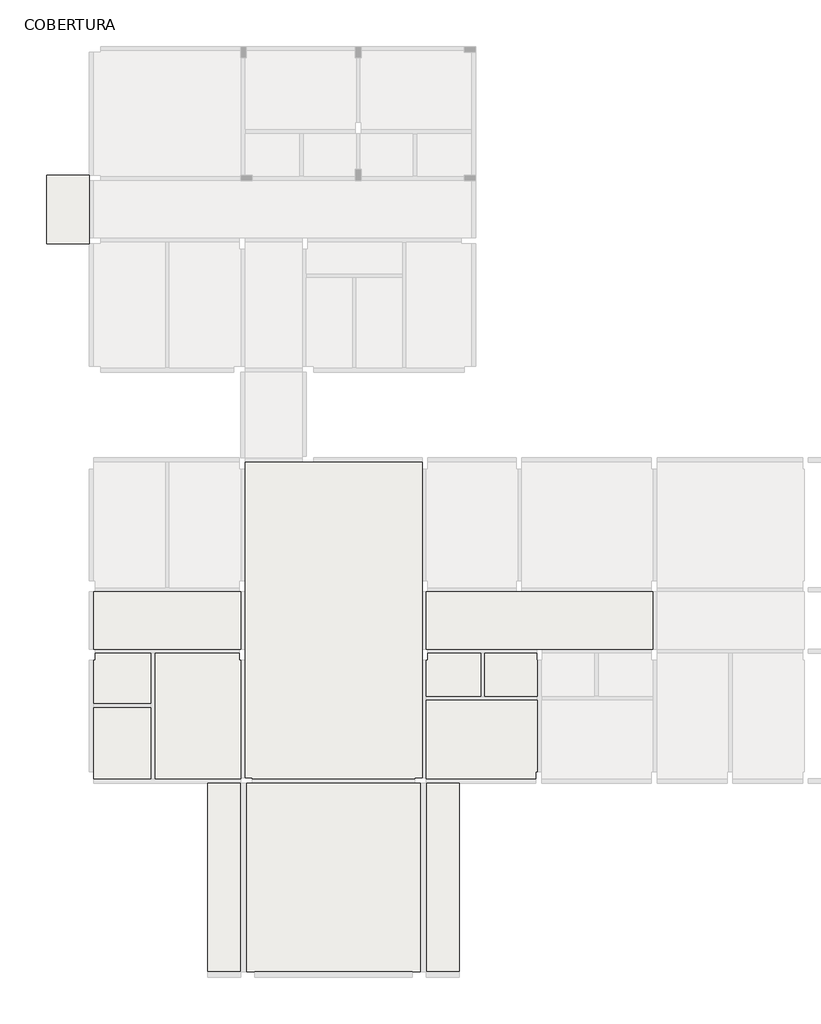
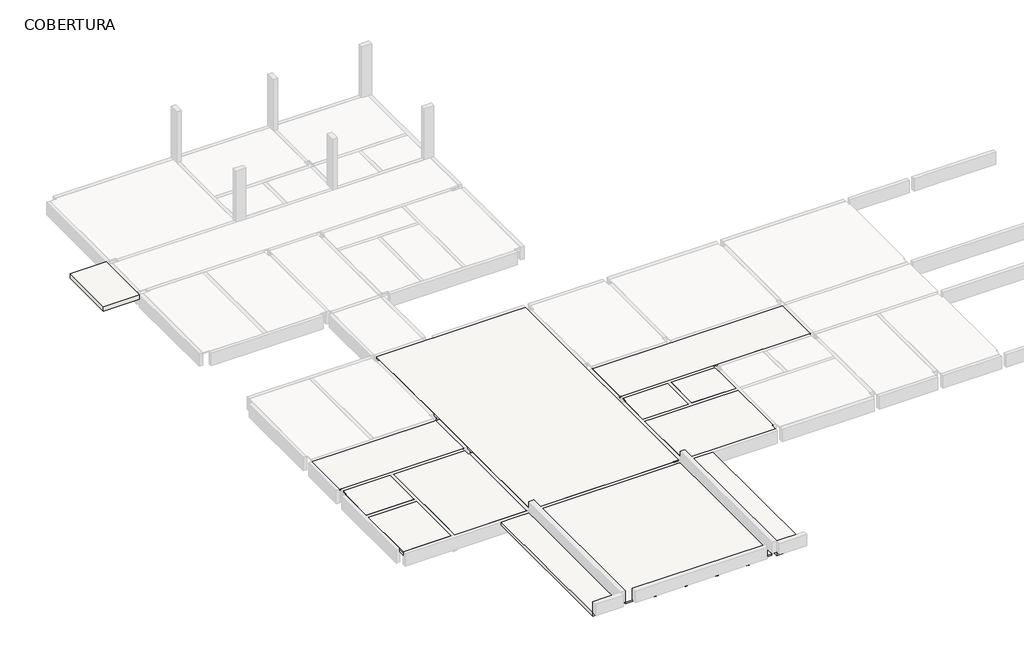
# One storey, part 1 of 5: 23 slabs.
"""IFC4 building model written with IfcOpenShell, lengths in millimetres."""

from ifc_helpers import new_model, si_unit, frame, origin, place, context, project, spatial, polyline, outline, extrude, faceted_brep, element, save

model = new_model("IFC4")

# Units and contexts
model_context = context("Model", 3, world=origin())
ifc_project = project(units=[si_unit("LENGTHUNIT", "METRE", prefix="MILLI")], contexts=[model_context])

# Site, building, storey
site = spatial("IfcSite", under=ifc_project)
building = spatial("IfcBuilding", under=site)
storey = spatial("IfcBuildingStorey", under=building, Name="COBERTURA", Elevation=4800.0)

# Slabs
placement = place(None, origin())
element("IfcSlab", 1, ObjectType="h=5", at=placement, inside=storey, context=model_context, shape_type="Brep", body=[
    faceted_brep([(2150.0, 150.0, 4750.0), (150.0, 150.0, 4750.0), (150.0, 2650.0, 4750.0), (2150.0, 2650.0, 4750.0), (2150.0, 150.0, 4800.0), (2150.0, 2650.0, 4800.0), (150.0, 2650.0, 4800.0), (150.0, 400.0, 4800.0), (150.0, 150.0, 4800.0)], [[[0, 1, 2, 3]], [[4, 5, 6, 7, 8]], [[1, 0, 4, 8]], [[2, 1, 8, 7, 6]], [[3, 2, 6, 5]], [[0, 3, 5, 4]]]),
])
element("IfcSlab", 2, ObjectType="h=10", at=placement, inside=storey, context=model_context, shape_type="SweptSolid", body=[
    extrude(outline(polyline([(2150.0, 150.0), (150.0, 150.0), (150.0, 400.0), (1350.0, 400.0), (1350.0, 690.0), (150.0, 690.0), (150.0, 780.0), (1350.0, 780.0), (1350.0, 1180.0), (150.0, 1180.0), (150.0, 1270.0), (1350.0, 1270.0), (1350.0, 1670.0), (150.0, 1670.0), (150.0, 1760.0), (1350.0, 1760.0), (1350.0, 2160.0), (150.0, 2160.0), (150.0, 2250.0), (1350.0, 2250.0), (1350.0, 2650.0), (1440.0, 2650.0), (1440.0, 2250.0), (2150.0, 2250.0), (2150.0, 2160.0), (1440.0, 2160.0), (1440.0, 1760.0), (2150.0, 1760.0), (2150.0, 1670.0), (1440.0, 1670.0), (1440.0, 1270.0), (2150.0, 1270.0), (2150.0, 1180.0), (1440.0, 1180.0), (1440.0, 780.0), (2150.0, 780.0), (2150.0, 690.0), (1440.0, 690.0), (1440.0, 290.0), (2150.0, 290.0), (2150.0, 150.0)])), frame((0.0, 0.0, 4650.0), z_axis=(0.0, 0.0, 1.0), x_axis=(1.0, 0.0, 0.0)), (0.0, 0.0, 1.0), 100.0),
])
element("IfcSlab", 3, ObjectType="h=5", at=placement, inside=storey, context=model_context, shape_type="SweptSolid", body=[
    extrude(outline(polyline([(150.0, 2800.0), (150.0, 4300.0), (200.0, 4300.0), (200.0, 4550.0), (2150.0, 4550.0), (2150.0, 2800.0), (150.0, 2800.0)])), frame((0.0, 0.0, 4750.0), z_axis=(0.0, 0.0, 1.0), x_axis=(1.0, 0.0, 0.0)), (0.0, 0.0, 1.0), 50.0),
])
element("IfcSlab", 4, ObjectType="h=10", at=placement, inside=storey, context=model_context, shape_type="SweptSolid", body=[
    extrude(outline(polyline([(150.0, 4300.0), (200.0, 4300.0), (200.0, 4270.0), (1350.0, 4270.0), (1350.0, 4550.0), (1440.0, 4550.0), (1440.0, 4270.0), (2150.0, 4270.0), (2150.0, 4180.0), (1440.0, 4180.0), (1440.0, 3780.0), (2150.0, 3780.0), (2150.0, 3690.0), (1440.0, 3690.0), (1440.0, 3290.0), (2150.0, 3290.0), (2150.0, 3200.0), (1440.0, 3200.0), (1440.0, 2800.0), (1350.0, 2800.0), (1350.0, 3200.0), (150.0, 3200.0), (150.0, 3290.0), (1350.0, 3290.0), (1350.0, 3690.0), (150.0, 3690.0), (150.0, 3780.0), (1350.0, 3780.0), (1350.0, 4180.0), (150.0, 4180.0), (150.0, 4300.0)])), frame((0.0, 0.0, 4650.0), z_axis=(0.0, 0.0, 1.0), x_axis=(1.0, 0.0, 0.0)), (0.0, 0.0, 1.0), 100.0),
])
element("IfcSlab", 5, ObjectType="h=5", at=placement, inside=storey, context=model_context, shape_type="Brep", body=[
    faceted_brep([(5300.0, 150.0, 4750.0), (2300.0, 150.0, 4750.0), (2300.0, 4550.0, 4750.0), (5250.0, 4550.0, 4750.0), (5250.0, 4300.0, 4750.0), (5300.0, 4300.0, 4750.0), (5300.0, 150.0, 4800.0), (5300.0, 200.0, 4800.0), (5300.0, 4300.0, 4800.0), (5250.0, 4300.0, 4800.0), (5250.0, 4550.0, 4800.0), (2300.0, 4550.0, 4800.0), (2300.0, 150.0, 4800.0)], [[[0, 1, 2, 3, 4, 5]], [[6, 7, 8, 9, 10, 11, 12]], [[1, 0, 6, 12]], [[2, 1, 12, 11]], [[3, 2, 11, 10]], [[4, 3, 10, 9]], [[5, 4, 9, 8]], [[0, 5, 8, 7, 6]]]),
])
element("IfcSlab", 6, ObjectType="h=10", at=placement, inside=storey, context=model_context, shape_type="SweptSolid", body=[
    extrude(outline(polyline([(2300.0, 4550.0), (5250.0, 4550.0), (5250.0, 4470.0), (4880.0, 4470.0), (4880.0, 4070.0), (5250.0, 4070.0), (5250.0, 4300.0), (5300.0, 4300.0), (5300.0, 3980.0), (4880.0, 3980.0), (4880.0, 3580.0), (5300.0, 3580.0), (5300.0, 3490.0), (4880.0, 3490.0), (4880.0, 3090.0), (5300.0, 3090.0), (5300.0, 3000.0), (4880.0, 3000.0), (4880.0, 2600.0), (5300.0, 2600.0), (5300.0, 2510.0), (4880.0, 2510.0), (4880.0, 2110.0), (5300.0, 2110.0), (5300.0, 2020.0), (4880.0, 2020.0), (4880.0, 1620.0), (5300.0, 1620.0), (5300.0, 1530.0), (4880.0, 1530.0), (4880.0, 1130.0), (5300.0, 1130.0), (5300.0, 1040.0), (4880.0, 1040.0), (4880.0, 640.0), (5300.0, 640.0), (5300.0, 550.0), (4880.0, 550.0), (4880.0, 150.0), (4790.0, 150.0), (4790.0, 550.0), (3590.0, 550.0), (3590.0, 150.0), (3500.0, 150.0), (3500.0, 550.0), (2300.0, 550.0), (2300.0, 640.0), (3500.0, 640.0), (3500.0, 1040.0), (2300.0, 1040.0), (2300.0, 1130.0), (3500.0, 1130.0), (3500.0, 1530.0), (2300.0, 1530.0), (2300.0, 1620.0), (3500.0, 1620.0), (3500.0, 2020.0), (2300.0, 2020.0), (2300.0, 2110.0), (3500.0, 2110.0), (3500.0, 2510.0), (2300.0, 2510.0), (2300.0, 2600.0), (3500.0, 2600.0), (3500.0, 3000.0), (2300.0, 3000.0), (2300.0, 3090.0), (3500.0, 3090.0), (3500.0, 3490.0), (2300.0, 3490.0), (2300.0, 3580.0), (3500.0, 3580.0), (3500.0, 3980.0), (2300.0, 3980.0), (2300.0, 4070.0), (3500.0, 4070.0), (3500.0, 4470.0), (2300.0, 4470.0), (2300.0, 4550.0)]), holes=[polyline([(4790.0, 1040.0), (3590.0, 1040.0), (3590.0, 640.0), (4790.0, 640.0), (4790.0, 1040.0)]), polyline([(4790.0, 1530.0), (3590.0, 1530.0), (3590.0, 1130.0), (4790.0, 1130.0), (4790.0, 1530.0)]), polyline([(4790.0, 2020.0), (3590.0, 2020.0), (3590.0, 1620.0), (4790.0, 1620.0), (4790.0, 2020.0)]), polyline([(4790.0, 2510.0), (3590.0, 2510.0), (3590.0, 2110.0), (4790.0, 2110.0), (4790.0, 2510.0)]), polyline([(4790.0, 3000.0), (3590.0, 3000.0), (3590.0, 2600.0), (4790.0, 2600.0), (4790.0, 3000.0)]), polyline([(4790.0, 3490.0), (3590.0, 3490.0), (3590.0, 3090.0), (4790.0, 3090.0), (4790.0, 3490.0)]), polyline([(4790.0, 3980.0), (3590.0, 3980.0), (3590.0, 3580.0), (4790.0, 3580.0), (4790.0, 3980.0)]), polyline([(4790.0, 4470.0), (3590.0, 4470.0), (3590.0, 4070.0), (4790.0, 4070.0), (4790.0, 4470.0)])]), frame((0.0, 0.0, 4650.0), z_axis=(0.0, 0.0, 1.0), x_axis=(1.0, 0.0, 0.0)), (0.0, 0.0, 1.0), 100.0),
])
element("IfcSlab", 7, ObjectType="h=5", at=placement, inside=storey, context=model_context, shape_type="Brep", body=[
    faceted_brep([(150.0, 4700.0, 4750.0), (150.0, 6700.0, 4750.0), (5300.0, 6700.0, 4750.0), (5300.0, 4700.0, 4750.0), (150.0, 4700.0, 4800.0), (200.0, 4700.0, 4800.0), (5250.0, 4700.0, 4800.0), (5300.0, 4700.0, 4800.0), (5300.0, 6700.0, 4800.0), (5250.0, 6700.0, 4800.0), (200.0, 6700.0, 4800.0), (150.0, 6700.0, 4800.0)], [[[0, 1, 2, 3]], [[4, 5, 6, 7, 8, 9, 10, 11]], [[1, 0, 4, 11]], [[2, 1, 11, 10, 9, 8]], [[3, 2, 8, 7]], [[0, 3, 7, 6, 5, 4]]]),
])
element("IfcSlab", 8, ObjectType="h=10", at=placement, inside=storey, context=model_context, shape_type="SweptSolid", body=[
    extrude(outline(polyline([(550.0, 4700.0), (550.0, 5900.0), (150.0, 5900.0), (150.0, 5990.0), (550.0, 5990.0), (550.0, 6700.0), (640.0, 6700.0), (640.0, 5990.0), (1040.0, 5990.0), (1040.0, 6700.0), (1130.0, 6700.0), (1130.0, 5990.0), (1530.0, 5990.0), (1530.0, 6700.0), (1620.0, 6700.0), (1620.0, 5990.0), (2020.0, 5990.0), (2020.0, 6700.0), (2110.0, 6700.0), (2110.0, 5990.0), (2510.0, 5990.0), (2510.0, 6700.0), (2600.0, 6700.0), (2600.0, 5990.0), (3000.0, 5990.0), (3000.0, 6700.0), (3090.0, 6700.0), (3090.0, 5990.0), (3490.0, 5990.0), (3490.0, 6700.0), (3580.0, 6700.0), (3580.0, 5990.0), (3980.0, 5990.0), (3980.0, 6700.0), (4070.0, 6700.0), (4070.0, 5990.0), (4470.0, 5990.0), (4470.0, 6700.0), (4560.0, 6700.0), (4560.0, 5990.0), (4960.0, 5990.0), (4960.0, 6700.0), (5050.0, 6700.0), (5050.0, 5990.0), (5300.0, 5990.0), (5300.0, 5900.0), (5050.0, 5900.0), (5050.0, 4700.0), (4960.0, 4700.0), (4960.0, 5900.0), (4560.0, 5900.0), (4560.0, 4700.0), (4470.0, 4700.0), (4470.0, 5900.0), (4070.0, 5900.0), (4070.0, 4700.0), (3980.0, 4700.0), (3980.0, 5900.0), (3580.0, 5900.0), (3580.0, 4700.0), (3490.0, 4700.0), (3490.0, 5900.0), (3090.0, 5900.0), (3090.0, 4700.0), (3000.0, 4700.0), (3000.0, 5900.0), (2600.0, 5900.0), (2600.0, 4700.0), (2510.0, 4700.0), (2510.0, 5900.0), (2110.0, 5900.0), (2110.0, 4700.0), (2020.0, 4700.0), (2020.0, 5900.0), (1620.0, 5900.0), (1620.0, 4700.0), (1530.0, 4700.0), (1530.0, 5900.0), (1130.0, 5900.0), (1130.0, 4700.0), (1040.0, 4700.0), (1040.0, 5900.0), (640.0, 5900.0), (640.0, 4700.0), (550.0, 4700.0)])), frame((0.0, 0.0, 4650.0), z_axis=(0.0, 0.0, 1.0), x_axis=(1.0, 0.0, 0.0)), (0.0, 0.0, 1.0), 100.0),
])
element("IfcSlab", 9, ObjectType="h=5", at=placement, inside=storey, context=model_context, shape_type="Brep", body=[
    faceted_brep([(15640.0, 150.0, 4750.0), (11800.0, 150.0, 4750.0), (11800.0, 2900.0, 4750.0), (15690.0, 2900.0, 4750.0), (15690.0, 400.0, 4750.0), (15640.0, 400.0, 4750.0), (15640.0, 150.0, 4800.0), (15640.0, 400.0, 4800.0), (15690.0, 400.0, 4800.0), (15690.0, 2900.0, 4800.0), (11800.0, 2900.0, 4800.0), (11800.0, 200.0, 4800.0), (11800.0, 150.0, 4800.0)], [[[0, 1, 2, 3, 4, 5]], [[6, 7, 8, 9, 10, 11, 12]], [[1, 0, 6, 12]], [[2, 1, 12, 11, 10]], [[3, 2, 10, 9]], [[4, 3, 9, 8]], [[5, 4, 8, 7]], [[0, 5, 7, 6]]]),
])
element("IfcSlab", 10, ObjectType="h=10", at=placement, inside=storey, context=model_context, shape_type="SweptSolid", body=[
    extrude(outline(polyline([(15690.0, 2900.0), (15690.0, 400.0), (15640.0, 400.0), (15640.0, 150.0), (15630.0, 150.0), (15630.0, 1350.0), (15230.0, 1350.0), (15230.0, 150.0), (15140.0, 150.0), (15140.0, 1350.0), (14740.0, 1350.0), (14740.0, 150.0), (14650.0, 150.0), (14650.0, 1350.0), (14250.0, 1350.0), (14250.0, 150.0), (14160.0, 150.0), (14160.0, 1350.0), (13760.0, 1350.0), (13760.0, 150.0), (13670.0, 150.0), (13670.0, 1350.0), (13270.0, 1350.0), (13270.0, 150.0), (13180.0, 150.0), (13180.0, 1350.0), (12780.0, 1350.0), (12780.0, 150.0), (12690.0, 150.0), (12690.0, 1350.0), (12290.0, 1350.0), (12290.0, 150.0), (12200.0, 150.0), (12200.0, 1350.0), (11800.0, 1350.0), (11800.0, 1440.0), (12200.0, 1440.0), (12200.0, 2640.0), (11800.0, 2640.0), (11800.0, 2730.0), (12200.0, 2730.0), (12200.0, 2900.0), (12290.0, 2900.0), (12290.0, 2730.0), (12690.0, 2730.0), (12690.0, 2900.0), (12780.0, 2900.0), (12780.0, 2730.0), (13180.0, 2730.0), (13180.0, 2900.0), (13270.0, 2900.0), (13270.0, 2730.0), (13670.0, 2730.0), (13670.0, 2900.0), (13760.0, 2900.0), (13760.0, 2730.0), (14160.0, 2730.0), (14160.0, 2900.0), (14250.0, 2900.0), (14250.0, 2730.0), (14650.0, 2730.0), (14650.0, 2900.0), (14740.0, 2900.0), (14740.0, 2730.0), (15140.0, 2730.0), (15140.0, 2900.0), (15230.0, 2900.0), (15230.0, 2730.0), (15630.0, 2730.0), (15630.0, 2900.0), (15690.0, 2900.0)]), holes=[polyline([(15230.0, 2640.0), (15230.0, 1440.0), (15630.0, 1440.0), (15630.0, 2640.0), (15230.0, 2640.0)]), polyline([(14740.0, 2640.0), (14740.0, 1440.0), (15140.0, 1440.0), (15140.0, 2640.0), (14740.0, 2640.0)]), polyline([(14250.0, 2640.0), (14250.0, 1440.0), (14650.0, 1440.0), (14650.0, 2640.0), (14250.0, 2640.0)]), polyline([(13760.0, 2640.0), (13760.0, 1440.0), (14160.0, 1440.0), (14160.0, 2640.0), (13760.0, 2640.0)]), polyline([(13270.0, 2640.0), (13270.0, 1440.0), (13670.0, 1440.0), (13670.0, 2640.0), (13270.0, 2640.0)]), polyline([(12780.0, 2640.0), (12780.0, 1440.0), (13180.0, 1440.0), (13180.0, 2640.0), (12780.0, 2640.0)]), polyline([(12290.0, 2640.0), (12290.0, 1440.0), (12690.0, 1440.0), (12690.0, 2640.0), (12290.0, 2640.0)])]), frame((0.0, 0.0, 4650.0), z_axis=(0.0, 0.0, 1.0), x_axis=(1.0, 0.0, 0.0)), (0.0, 0.0, 1.0), 100.0),
])
element("IfcSlab", 11, ObjectType="h=5", at=placement, inside=storey, context=model_context, shape_type="SweptSolid", body=[
    extrude(outline(polyline([(11800.0, 3050.0), (11800.0, 4300.0), (11850.0, 4300.0), (11850.0, 4550.0), (13700.0, 4550.0), (13700.0, 3050.0), (11800.0, 3050.0)])), frame((0.0, 0.0, 4750.0), z_axis=(0.0, 0.0, 1.0), x_axis=(1.0, 0.0, 0.0)), (0.0, 0.0, 1.0), 50.0),
])
element("IfcSlab", 12, ObjectType="h=10", at=placement, inside=storey, context=model_context, shape_type="SweptSolid", body=[
    extrude(outline(polyline([(11800.0, 3050.0), (11800.0, 4300.0), (11850.0, 4300.0), (11850.0, 4340.0), (12230.0, 4340.0), (12230.0, 4550.0), (12320.0, 4550.0), (12320.0, 4340.0), (12720.0, 4340.0), (12720.0, 4550.0), (12810.0, 4550.0), (12810.0, 4340.0), (13210.0, 4340.0), (13210.0, 4550.0), (13300.0, 4550.0), (13300.0, 4340.0), (13700.0, 4340.0), (13700.0, 4250.0), (13300.0, 4250.0), (13300.0, 3050.0), (13210.0, 3050.0), (13210.0, 4250.0), (12810.0, 4250.0), (12810.0, 3050.0), (12720.0, 3050.0), (12720.0, 4250.0), (12320.0, 4250.0), (12320.0, 3050.0), (12230.0, 3050.0), (12230.0, 4250.0), (11830.0, 4250.0), (11830.0, 3050.0), (11800.0, 3050.0)])), frame((0.0, 0.0, 4650.0), z_axis=(0.0, 0.0, 1.0), x_axis=(1.0, 0.0, 0.0)), (0.0, 0.0, 1.0), 100.0),
])
element("IfcSlab", 13, ObjectType="h=5", at=placement, inside=storey, context=model_context, shape_type="SweptSolid", body=[
    extrude(outline(polyline([(13850.0, 4550.0), (15665.0, 4550.0), (15665.0, 4300.0), (15690.0, 4300.0), (15690.0, 3050.0), (13850.0, 3050.0), (13850.0, 4550.0)])), frame((0.0, 0.0, 4750.0), z_axis=(0.0, 0.0, 1.0), x_axis=(1.0, 0.0, 0.0)), (0.0, 0.0, 1.0), 50.0),
])
element("IfcSlab", 14, ObjectType="h=10", at=placement, inside=storey, context=model_context, shape_type="SweptSolid", body=[
    extrude(outline(polyline([(15665.0, 4300.0), (15690.0, 4300.0), (15690.0, 4250.0), (15320.0, 4250.0), (15320.0, 3050.0), (15230.0, 3050.0), (15230.0, 4250.0), (14830.0, 4250.0), (14830.0, 3050.0), (14740.0, 3050.0), (14740.0, 4250.0), (14340.0, 4250.0), (14340.0, 3050.0), (14250.0, 3050.0), (14250.0, 4250.0), (13850.0, 4250.0), (13850.0, 4340.0), (14250.0, 4340.0), (14250.0, 4550.0), (14340.0, 4550.0), (14340.0, 4340.0), (14740.0, 4340.0), (14740.0, 4550.0), (14830.0, 4550.0), (14830.0, 4340.0), (15230.0, 4340.0), (15230.0, 4550.0), (15320.0, 4550.0), (15320.0, 4340.0), (15665.0, 4340.0), (15665.0, 4300.0)])), frame((0.0, 0.0, 4650.0), z_axis=(0.0, 0.0, 1.0), x_axis=(1.0, 0.0, 0.0)), (0.0, 0.0, 1.0), 100.0),
])
element("IfcSlab", 15, ObjectType="h=5", at=placement, inside=storey, context=model_context, shape_type="Brep", body=[
    faceted_brep([(11800.0, 4700.0, 4750.0), (11800.0, 6700.0, 4750.0), (19730.0, 6700.0, 4750.0), (19730.0, 4700.0, 4750.0), (11800.0, 4700.0, 4800.0), (11850.0, 4700.0, 4800.0), (15665.0, 4700.0, 4800.0), (15865.0, 4700.0, 4800.0), (19680.0, 4700.0, 4800.0), (19730.0, 4700.0, 4800.0), (19730.0, 6700.0, 4800.0), (19680.0, 6700.0, 4800.0), (15150.0, 6700.0, 4800.0), (14950.0, 6700.0, 4800.0), (11850.0, 6700.0, 4800.0), (11800.0, 6700.0, 4800.0)], [[[0, 1, 2, 3]], [[4, 5, 6, 7, 8, 9, 10, 11, 12, 13, 14, 15]], [[1, 0, 4, 15]], [[2, 1, 15, 14, 13, 12, 11, 10]], [[3, 2, 10, 9]], [[0, 3, 9, 8, 7, 6, 5, 4]]]),
])
element("IfcSlab", 16, ObjectType="h=10", at=placement, inside=storey, context=model_context, shape_type="SweptSolid", body=[
    extrude(outline(polyline([(19730.0, 6700.0), (19730.0, 4700.0), (19550.0, 4700.0), (19550.0, 5900.0), (19150.0, 5900.0), (19150.0, 4700.0), (19060.0, 4700.0), (19060.0, 5900.0), (18660.0, 5900.0), (18660.0, 4700.0), (18570.0, 4700.0), (18570.0, 5900.0), (18170.0, 5900.0), (18170.0, 4700.0), (18080.0, 4700.0), (18080.0, 5900.0), (17680.0, 5900.0), (17680.0, 4700.0), (17590.0, 4700.0), (17590.0, 5900.0), (17190.0, 5900.0), (17190.0, 4700.0), (17100.0, 4700.0), (17100.0, 5900.0), (16700.0, 5900.0), (16700.0, 4700.0), (16610.0, 4700.0), (16610.0, 5900.0), (16210.0, 5900.0), (16210.0, 4700.0), (16120.0, 4700.0), (16120.0, 5900.0), (15720.0, 5900.0), (15720.0, 4700.0), (15630.0, 4700.0), (15630.0, 5900.0), (15230.0, 5900.0), (15230.0, 4700.0), (15140.0, 4700.0), (15140.0, 5900.0), (14740.0, 5900.0), (14740.0, 4700.0), (14650.0, 4700.0), (14650.0, 5900.0), (14250.0, 5900.0), (14250.0, 4700.0), (14160.0, 4700.0), (14160.0, 5900.0), (13760.0, 5900.0), (13760.0, 4700.0), (13670.0, 4700.0), (13670.0, 5900.0), (13270.0, 5900.0), (13270.0, 4700.0), (13180.0, 4700.0), (13180.0, 5900.0), (12780.0, 5900.0), (12780.0, 4700.0), (12690.0, 4700.0), (12690.0, 5900.0), (12290.0, 5900.0), (12290.0, 4700.0), (12200.0, 4700.0), (12200.0, 5900.0), (11800.0, 5900.0), (11800.0, 5990.0), (12200.0, 5990.0), (12200.0, 6700.0), (12290.0, 6700.0), (12290.0, 5990.0), (12690.0, 5990.0), (12690.0, 6700.0), (12780.0, 6700.0), (12780.0, 5990.0), (13180.0, 5990.0), (13180.0, 6700.0), (13270.0, 6700.0), (13270.0, 5990.0), (13670.0, 5990.0), (13670.0, 6700.0), (13760.0, 6700.0), (13760.0, 5990.0), (14160.0, 5990.0), (14160.0, 6700.0), (14250.0, 6700.0), (14250.0, 5990.0), (14650.0, 5990.0), (14650.0, 6700.0), (14740.0, 6700.0), (14740.0, 5990.0), (15140.0, 5990.0), (15140.0, 6700.0), (15230.0, 6700.0), (15230.0, 5990.0), (15630.0, 5990.0), (15630.0, 6700.0), (15720.0, 6700.0), (15720.0, 5990.0), (16120.0, 5990.0), (16120.0, 6700.0), (16210.0, 6700.0), (16210.0, 5990.0), (16610.0, 5990.0), (16610.0, 6700.0), (16700.0, 6700.0), (16700.0, 5990.0), (17100.0, 5990.0), (17100.0, 6700.0), (17190.0, 6700.0), (17190.0, 5990.0), (17590.0, 5990.0), (17590.0, 6700.0), (17680.0, 6700.0), (17680.0, 5990.0), (18080.0, 5990.0), (18080.0, 6700.0), (18170.0, 6700.0), (18170.0, 5990.0), (18570.0, 5990.0), (18570.0, 6700.0), (18660.0, 6700.0), (18660.0, 5990.0), (19060.0, 5990.0), (19060.0, 6700.0), (19150.0, 6700.0), (19150.0, 5990.0), (19550.0, 5990.0), (19550.0, 6700.0), (19730.0, 6700.0)])), frame((0.0, 0.0, 4650.0), z_axis=(0.0, 0.0, 1.0), x_axis=(1.0, 0.0, 0.0)), (0.0, 0.0, 1.0), 100.0),
])
element("IfcSlab", 17, ObjectType="h=6", at=placement, inside=storey, context=model_context, shape_type="Brep", body=[
    faceted_brep([(11400.0, 150.0, 4740.0), (5700.0, 150.0, 4740.0), (5700.0, 200.0, 4740.0), (5450.0, 200.0, 4740.0), (5450.0, 11250.0, 4740.0), (11650.0, 11250.0, 4740.0), (11650.0, 200.0, 4740.0), (11400.0, 200.0, 4740.0), (11400.0, 150.0, 4800.0), (11400.0, 200.0, 4800.0), (11650.0, 200.0, 4800.0), (11650.0, 4300.0, 4800.0), (11650.0, 4700.0, 4800.0), (11650.0, 6700.0, 4800.0), (11650.0, 7100.0, 4800.0), (11650.0, 11000.0, 4800.0), (11650.0, 11250.0, 4800.0), (7850.0, 11250.0, 4800.0), (7450.0, 11250.0, 4800.0), (5450.0, 11250.0, 4800.0), (5450.0, 11000.0, 4800.0), (5450.0, 7100.0, 4800.0), (5450.0, 6700.0, 4800.0), (5450.0, 4700.0, 4800.0), (5450.0, 4300.0, 4800.0), (5450.0, 200.0, 4800.0), (5700.0, 200.0, 4800.0), (5700.0, 150.0, 4800.0)], [[[0, 1, 2, 3, 4, 5, 6, 7]], [[8, 9, 10, 11, 12, 13, 14, 15, 16, 17, 18, 19, 20, 21, 22, 23, 24, 25, 26, 27]], [[1, 0, 8, 27]], [[2, 1, 27, 26]], [[3, 2, 26, 25]], [[4, 3, 25, 24, 23, 22, 21, 20, 19]], [[5, 4, 19, 18, 17, 16]], [[6, 5, 16, 15, 14, 13, 12, 11, 10]], [[7, 6, 10, 9]], [[0, 7, 9, 8]]]),
])
element("IfcSlab", 18, ObjectType="h=12", at=placement, inside=storey, context=model_context, shape_type="SweptSolid", body=[
    extrude(outline(polyline([(5700.0, 150.0), (5700.0, 200.0), (6650.0, 200.0), (6650.0, 470.0), (5450.0, 470.0), (5450.0, 560.0), (6650.0, 560.0), (6650.0, 960.0), (5450.0, 960.0), (5450.0, 1050.0), (6650.0, 1050.0), (6650.0, 1450.0), (5450.0, 1450.0), (5450.0, 1540.0), (6650.0, 1540.0), (6650.0, 1940.0), (5450.0, 1940.0), (5450.0, 2030.0), (6650.0, 2030.0), (6650.0, 2430.0), (5450.0, 2430.0), (5450.0, 2520.0), (6650.0, 2520.0), (6650.0, 2920.0), (5450.0, 2920.0), (5450.0, 3010.0), (6650.0, 3010.0), (6650.0, 3410.0), (5450.0, 3410.0), (5450.0, 3500.0), (6650.0, 3500.0), (6650.0, 3900.0), (5450.0, 3900.0), (5450.0, 3990.0), (6650.0, 3990.0), (6650.0, 4390.0), (5450.0, 4390.0), (5450.0, 4480.0), (6650.0, 4480.0), (6650.0, 4880.0), (5450.0, 4880.0), (5450.0, 4970.0), (6650.0, 4970.0), (6650.0, 5370.0), (5450.0, 5370.0), (5450.0, 5460.0), (6650.0, 5460.0), (6650.0, 5860.0), (5450.0, 5860.0), (5450.0, 5950.0), (6650.0, 5950.0), (6650.0, 6350.0), (5450.0, 6350.0), (5450.0, 6440.0), (6650.0, 6440.0), (6650.0, 6840.0), (5450.0, 6840.0), (5450.0, 6930.0), (6650.0, 6930.0), (6650.0, 7330.0), (5450.0, 7330.0), (5450.0, 7420.0), (6650.0, 7420.0), (6650.0, 7820.0), (5450.0, 7820.0), (5450.0, 7910.0), (6650.0, 7910.0), (6650.0, 8310.0), (5450.0, 8310.0), (5450.0, 8400.0), (6650.0, 8400.0), (6650.0, 8800.0), (5450.0, 8800.0), (5450.0, 8890.0), (6650.0, 8890.0), (6650.0, 9290.0), (5450.0, 9290.0), (5450.0, 9380.0), (6650.0, 9380.0), (6650.0, 9780.0), (5450.0, 9780.0), (5450.0, 9870.0), (6650.0, 9870.0), (6650.0, 10270.0), (5450.0, 10270.0), (5450.0, 10360.0), (6650.0, 10360.0), (6650.0, 10760.0), (5450.0, 10760.0), (5450.0, 10850.0), (6650.0, 10850.0), (6650.0, 11250.0), (6740.0, 11250.0), (6740.0, 10850.0), (7940.0, 10850.0), (7940.0, 11250.0), (8030.0, 11250.0), (8030.0, 10850.0), (9230.0, 10850.0), (9230.0, 11250.0), (9320.0, 11250.0), (9320.0, 10850.0), (10520.0, 10850.0), (10520.0, 11250.0), (10610.0, 11250.0), (10610.0, 10850.0), (11650.0, 10850.0), (11650.0, 10760.0), (10610.0, 10760.0), (10610.0, 10360.0), (11650.0, 10360.0), (11650.0, 10270.0), (10610.0, 10270.0), (10610.0, 9870.0), (11650.0, 9870.0), (11650.0, 9780.0), (10610.0, 9780.0), (10610.0, 9380.0), (11650.0, 9380.0), (11650.0, 9290.0), (10610.0, 9290.0), (10610.0, 8890.0), (11650.0, 8890.0), (11650.0, 8800.0), (10610.0, 8800.0), (10610.0, 8400.0), (11650.0, 8400.0), (11650.0, 8310.0), (10610.0, 8310.0), (10610.0, 7910.0), (11650.0, 7910.0), (11650.0, 7820.0), (10610.0, 7820.0), (10610.0, 7420.0), (11650.0, 7420.0), (11650.0, 7330.0), (10610.0, 7330.0), (10610.0, 6930.0), (11650.0, 6930.0), (11650.0, 6840.0), (10610.0, 6840.0), (10610.0, 6440.0), (11650.0, 6440.0), (11650.0, 6350.0), (10610.0, 6350.0), (10610.0, 5950.0), (11650.0, 5950.0), (11650.0, 5860.0), (10610.0, 5860.0), (10610.0, 5460.0), (11650.0, 5460.0), (11650.0, 5370.0), (10610.0, 5370.0), (10610.0, 4970.0), (11650.0, 4970.0), (11650.0, 4880.0), (10610.0, 4880.0), (10610.0, 4480.0), (11650.0, 4480.0), (11650.0, 4390.0), (10610.0, 4390.0), (10610.0, 3990.0), (11650.0, 3990.0), (11650.0, 3900.0), (10610.0, 3900.0), (10610.0, 3500.0), (11650.0, 3500.0), (11650.0, 3410.0), (10610.0, 3410.0), (10610.0, 3010.0), (11650.0, 3010.0), (11650.0, 2920.0), (10610.0, 2920.0), (10610.0, 2520.0), (11650.0, 2520.0), (11650.0, 2430.0), (10610.0, 2430.0), (10610.0, 2030.0), (11650.0, 2030.0), (11650.0, 1940.0), (10610.0, 1940.0), (10610.0, 1540.0), (11650.0, 1540.0), (11650.0, 1450.0), (10610.0, 1450.0), (10610.0, 1050.0), (11650.0, 1050.0), (11650.0, 960.0), (10610.0, 960.0), (10610.0, 560.0), (11650.0, 560.0), (11650.0, 470.0), (10610.0, 470.0), (10610.0, 150.0), (10520.0, 150.0), (10520.0, 470.0), (9320.0, 470.0), (9320.0, 150.0), (9230.0, 150.0), (9230.0, 470.0), (8030.0, 470.0), (8030.0, 150.0), (7940.0, 150.0), (7940.0, 470.0), (6740.0, 470.0), (6740.0, 150.0), (5700.0, 150.0)]), holes=[polyline([(7940.0, 960.0), (6740.0, 960.0), (6740.0, 560.0), (7940.0, 560.0), (7940.0, 960.0)]), polyline([(9230.0, 960.0), (8030.0, 960.0), (8030.0, 560.0), (9230.0, 560.0), (9230.0, 960.0)]), polyline([(10520.0, 960.0), (9320.0, 960.0), (9320.0, 560.0), (10520.0, 560.0), (10520.0, 960.0)]), polyline([(7940.0, 1450.0), (6740.0, 1450.0), (6740.0, 1050.0), (7940.0, 1050.0), (7940.0, 1450.0)]), polyline([(9230.0, 1450.0), (8030.0, 1450.0), (8030.0, 1050.0), (9230.0, 1050.0), (9230.0, 1450.0)]), polyline([(10520.0, 1450.0), (9320.0, 1450.0), (9320.0, 1050.0), (10520.0, 1050.0), (10520.0, 1450.0)]), polyline([(7940.0, 1940.0), (6740.0, 1940.0), (6740.0, 1540.0), (7940.0, 1540.0), (7940.0, 1940.0)]), polyline([(9230.0, 1940.0), (8030.0, 1940.0), (8030.0, 1540.0), (9230.0, 1540.0), (9230.0, 1940.0)]), polyline([(10520.0, 1940.0), (9320.0, 1940.0), (9320.0, 1540.0), (10520.0, 1540.0), (10520.0, 1940.0)]), polyline([(7940.0, 2430.0), (6740.0, 2430.0), (6740.0, 2030.0), (7940.0, 2030.0), (7940.0, 2430.0)]), polyline([(9230.0, 2430.0), (8030.0, 2430.0), (8030.0, 2030.0), (9230.0, 2030.0), (9230.0, 2430.0)]), polyline([(10520.0, 2430.0), (9320.0, 2430.0), (9320.0, 2030.0), (10520.0, 2030.0), (10520.0, 2430.0)]), polyline([(7940.0, 2920.0), (6740.0, 2920.0), (6740.0, 2520.0), (7940.0, 2520.0), (7940.0, 2920.0)]), polyline([(9230.0, 2920.0), (8030.0, 2920.0), (8030.0, 2520.0), (9230.0, 2520.0), (9230.0, 2920.0)]), polyline([(10520.0, 2920.0), (9320.0, 2920.0), (9320.0, 2520.0), (10520.0, 2520.0), (10520.0, 2920.0)]), polyline([(7940.0, 3410.0), (6740.0, 3410.0), (6740.0, 3010.0), (7940.0, 3010.0), (7940.0, 3410.0)]), polyline([(9230.0, 3410.0), (8030.0, 3410.0), (8030.0, 3010.0), (9230.0, 3010.0), (9230.0, 3410.0)]), polyline([(10520.0, 3410.0), (9320.0, 3410.0), (9320.0, 3010.0), (10520.0, 3010.0), (10520.0, 3410.0)]), polyline([(7940.0, 3900.0), (6740.0, 3900.0), (6740.0, 3500.0), (7940.0, 3500.0), (7940.0, 3900.0)]), polyline([(9230.0, 3900.0), (8030.0, 3900.0), (8030.0, 3500.0), (9230.0, 3500.0), (9230.0, 3900.0)]), polyline([(10520.0, 3900.0), (9320.0, 3900.0), (9320.0, 3500.0), (10520.0, 3500.0), (10520.0, 3900.0)]), polyline([(7940.0, 4390.0), (6740.0, 4390.0), (6740.0, 3990.0), (7940.0, 3990.0), (7940.0, 4390.0)]), polyline([(9230.0, 4390.0), (8030.0, 4390.0), (8030.0, 3990.0), (9230.0, 3990.0), (9230.0, 4390.0)]), polyline([(10520.0, 4390.0), (9320.0, 4390.0), (9320.0, 3990.0), (10520.0, 3990.0), (10520.0, 4390.0)]), polyline([(7940.0, 4880.0), (6740.0, 4880.0), (6740.0, 4480.0), (7940.0, 4480.0), (7940.0, 4880.0)]), polyline([(9230.0, 4880.0), (8030.0, 4880.0), (8030.0, 4480.0), (9230.0, 4480.0), (9230.0, 4880.0)]), polyline([(10520.0, 4880.0), (9320.0, 4880.0), (9320.0, 4480.0), (10520.0, 4480.0), (10520.0, 4880.0)]), polyline([(7940.0, 5370.0), (6740.0, 5370.0), (6740.0, 4970.0), (7940.0, 4970.0), (7940.0, 5370.0)]), polyline([(9230.0, 5370.0), (8030.0, 5370.0), (8030.0, 4970.0), (9230.0, 4970.0), (9230.0, 5370.0)]), polyline([(10520.0, 5370.0), (9320.0, 5370.0), (9320.0, 4970.0), (10520.0, 4970.0), (10520.0, 5370.0)]), polyline([(7940.0, 5860.0), (6740.0, 5860.0), (6740.0, 5460.0), (7940.0, 5460.0), (7940.0, 5860.0)]), polyline([(9230.0, 5860.0), (8030.0, 5860.0), (8030.0, 5460.0), (9230.0, 5460.0), (9230.0, 5860.0)]), polyline([(10520.0, 5860.0), (9320.0, 5860.0), (9320.0, 5460.0), (10520.0, 5460.0), (10520.0, 5860.0)]), polyline([(7940.0, 6350.0), (6740.0, 6350.0), (6740.0, 5950.0), (7940.0, 5950.0), (7940.0, 6350.0)]), polyline([(9230.0, 6350.0), (8030.0, 6350.0), (8030.0, 5950.0), (9230.0, 5950.0), (9230.0, 6350.0)]), polyline([(10520.0, 6350.0), (9320.0, 6350.0), (9320.0, 5950.0), (10520.0, 5950.0), (10520.0, 6350.0)]), polyline([(7940.0, 6840.0), (6740.0, 6840.0), (6740.0, 6440.0), (7940.0, 6440.0), (7940.0, 6840.0)]), polyline([(9230.0, 6840.0), (8030.0, 6840.0), (8030.0, 6440.0), (9230.0, 6440.0), (9230.0, 6840.0)]), polyline([(10520.0, 6840.0), (9320.0, 6840.0), (9320.0, 6440.0), (10520.0, 6440.0), (10520.0, 6840.0)]), polyline([(7940.0, 7330.0), (6740.0, 7330.0), (6740.0, 6930.0), (7940.0, 6930.0), (7940.0, 7330.0)]), polyline([(9230.0, 7330.0), (8030.0, 7330.0), (8030.0, 6930.0), (9230.0, 6930.0), (9230.0, 7330.0)]), polyline([(10520.0, 7330.0), (9320.0, 7330.0), (9320.0, 6930.0), (10520.0, 6930.0), (10520.0, 7330.0)]), polyline([(7940.0, 7820.0), (6740.0, 7820.0), (6740.0, 7420.0), (7940.0, 7420.0), (7940.0, 7820.0)]), polyline([(9230.0, 7820.0), (8030.0, 7820.0), (8030.0, 7420.0), (9230.0, 7420.0), (9230.0, 7820.0)]), polyline([(10520.0, 7820.0), (9320.0, 7820.0), (9320.0, 7420.0), (10520.0, 7420.0), (10520.0, 7820.0)]), polyline([(7940.0, 8310.0), (6740.0, 8310.0), (6740.0, 7910.0), (7940.0, 7910.0), (7940.0, 8310.0)]), polyline([(9230.0, 8310.0), (8030.0, 8310.0), (8030.0, 7910.0), (9230.0, 7910.0), (9230.0, 8310.0)]), polyline([(10520.0, 8310.0), (9320.0, 8310.0), (9320.0, 7910.0), (10520.0, 7910.0), (10520.0, 8310.0)]), polyline([(7940.0, 8800.0), (6740.0, 8800.0), (6740.0, 8400.0), (7940.0, 8400.0), (7940.0, 8800.0)]), polyline([(9230.0, 8800.0), (8030.0, 8800.0), (8030.0, 8400.0), (9230.0, 8400.0), (9230.0, 8800.0)]), polyline([(10520.0, 8800.0), (9320.0, 8800.0), (9320.0, 8400.0), (10520.0, 8400.0), (10520.0, 8800.0)]), polyline([(7940.0, 9290.0), (6740.0, 9290.0), (6740.0, 8890.0), (7940.0, 8890.0), (7940.0, 9290.0)]), polyline([(9230.0, 9290.0), (8030.0, 9290.0), (8030.0, 8890.0), (9230.0, 8890.0), (9230.0, 9290.0)]), polyline([(10520.0, 9290.0), (9320.0, 9290.0), (9320.0, 8890.0), (10520.0, 8890.0), (10520.0, 9290.0)]), polyline([(7940.0, 9780.0), (6740.0, 9780.0), (6740.0, 9380.0), (7940.0, 9380.0), (7940.0, 9780.0)]), polyline([(9230.0, 9780.0), (8030.0, 9780.0), (8030.0, 9380.0), (9230.0, 9380.0), (9230.0, 9780.0)]), polyline([(10520.0, 9780.0), (9320.0, 9780.0), (9320.0, 9380.0), (10520.0, 9380.0), (10520.0, 9780.0)]), polyline([(7940.0, 10270.0), (6740.0, 10270.0), (6740.0, 9870.0), (7940.0, 9870.0), (7940.0, 10270.0)]), polyline([(9230.0, 10270.0), (8030.0, 10270.0), (8030.0, 9870.0), (9230.0, 9870.0), (9230.0, 10270.0)]), polyline([(10520.0, 10270.0), (9320.0, 10270.0), (9320.0, 9870.0), (10520.0, 9870.0), (10520.0, 10270.0)]), polyline([(7940.0, 10760.0), (6740.0, 10760.0), (6740.0, 10360.0), (7940.0, 10360.0), (7940.0, 10760.0)]), polyline([(9230.0, 10760.0), (8030.0, 10760.0), (8030.0, 10360.0), (9230.0, 10360.0), (9230.0, 10760.0)]), polyline([(10520.0, 10760.0), (9320.0, 10760.0), (9320.0, 10360.0), (10520.0, 10360.0), (10520.0, 10760.0)])]), frame((0.0, 0.0, 4620.0), z_axis=(0.0, 0.0, 1.0), x_axis=(1.0, 0.0, 0.0)), (0.0, 0.0, 1.0), 120.0),
])
element("IfcSlab", 19, ObjectType="h=20", at=placement, inside=storey, context=model_context, shape_type="Brep", body=[
    faceted_brep([(-1500.0, 21300.0, 4600.0), (0.0, 21300.0, 4600.0), (0.0, 18900.0, 4600.0), (-1500.0, 18900.0, 4600.0), (-1500.0, 21300.0, 4800.0), (-1500.0, 18900.0, 4800.0), (0.0, 18900.0, 4800.0), (0.0, 19100.0, 4800.0), (0.0, 21100.0, 4800.0), (0.0, 21300.0, 4800.0)], [[[0, 1, 2, 3]], [[4, 5, 6, 7, 8, 9]], [[1, 0, 4, 9]], [[2, 1, 9, 8, 7, 6]], [[3, 2, 6, 5]], [[0, 3, 5, 4]]]),
])
element("IfcSlab", 20, ObjectType="h=15", at=placement, inside=storey, context=model_context, shape_type="SweptSolid", body=[
    extrude(outline(polyline([(4150.0, 0.0), (5300.0, 0.0), (5300.0, -6600.0), (4150.0, -6600.0), (4150.0, 0.0)])), frame((0.0, 0.0, 4650.0), z_axis=(0.0, 0.0, 1.0), x_axis=(1.0, 0.0, 0.0)), (0.0, 0.0, 1.0), 150.0),
])
element("IfcSlab", 21, ObjectType="h=15", at=placement, inside=storey, context=model_context, shape_type="SweptSolid", body=[
    extrude(outline(polyline([(12950.0, -6600.0), (11800.0, -6600.0), (11800.0, 0.0), (12950.0, 0.0), (12950.0, -6600.0)])), frame((0.0, 0.0, 4650.0), z_axis=(0.0, 0.0, 1.0), x_axis=(1.0, 0.0, 0.0)), (0.0, 0.0, 1.0), 150.0),
])
element("IfcSlab", 22, ObjectType="h=6", at=placement, inside=storey, context=model_context, shape_type="Brep", body=[
    faceted_brep([(5500.0, -6600.0, 4740.0), (5500.0, 0.0, 4740.0), (11600.0, 0.0, 4740.0), (11600.0, -6600.0, 4740.0), (5500.0, -6600.0, 4800.0), (11600.0, -6600.0, 4800.0), (11600.0, 0.0, 4800.0), (11400.0, 0.0, 4800.0), (5700.0, 0.0, 4800.0), (5500.0, 0.0, 4800.0)], [[[0, 1, 2, 3]], [[4, 5, 6, 7, 8, 9]], [[1, 0, 4, 9]], [[2, 1, 9, 8, 7, 6]], [[3, 2, 6, 5]], [[0, 3, 5, 4]]]),
])
element("IfcSlab", 23, ObjectType="h=12", at=placement, inside=storey, context=model_context, shape_type="SweptSolid", body=[
    extrude(outline(polyline([(5500.0, -400.0), (6700.0, -400.0), (6700.0, 0.0), (6790.0, 0.0), (6790.0, -400.0), (7990.0, -400.0), (7990.0, 0.0), (8080.0, 0.0), (8080.0, -400.0), (9280.0, -400.0), (9280.0, 0.0), (9370.0, 0.0), (9370.0, -400.0), (10570.0, -400.0), (10570.0, 0.0), (10660.0, 0.0), (10660.0, -400.0), (11600.0, -400.0), (11600.0, -490.0), (10660.0, -490.0), (10660.0, -890.0), (11600.0, -890.0), (11600.0, -980.0), (10660.0, -980.0), (10660.0, -1380.0), (11600.0, -1380.0), (11600.0, -1470.0), (10660.0, -1470.0), (10660.0, -1870.0), (11600.0, -1870.0), (11600.0, -1960.0), (10660.0, -1960.0), (10660.0, -2360.0), (11600.0, -2360.0), (11600.0, -2450.0), (10660.0, -2450.0), (10660.0, -2850.0), (11600.0, -2850.0), (11600.0, -2940.0), (10660.0, -2940.0), (10660.0, -3340.0), (11600.0, -3340.0), (11600.0, -3430.0), (10660.0, -3430.0), (10660.0, -3830.0), (11600.0, -3830.0), (11600.0, -3920.0), (10660.0, -3920.0), (10660.0, -4320.0), (11600.0, -4320.0), (11600.0, -4410.0), (10660.0, -4410.0), (10660.0, -4810.0), (11600.0, -4810.0), (11600.0, -4900.0), (10660.0, -4900.0), (10660.0, -5300.0), (11600.0, -5300.0), (11600.0, -5390.0), (10660.0, -5390.0), (10660.0, -5790.0), (11600.0, -5790.0), (11600.0, -5880.0), (10660.0, -5880.0), (10660.0, -6280.0), (11600.0, -6280.0), (11600.0, -6370.0), (10660.0, -6370.0), (10660.0, -6600.0), (10570.0, -6600.0), (10570.0, -6370.0), (9370.0, -6370.0), (9370.0, -6600.0), (9280.0, -6600.0), (9280.0, -6370.0), (8080.0, -6370.0), (8080.0, -6600.0), (7990.0, -6600.0), (7990.0, -6370.0), (6790.0, -6370.0), (6790.0, -6600.0), (6700.0, -6600.0), (6700.0, -6370.0), (5500.0, -6370.0), (5500.0, -6280.0), (6700.0, -6280.0), (6700.0, -5880.0), (5500.0, -5880.0), (5500.0, -5790.0), (6700.0, -5790.0), (6700.0, -5390.0), (5500.0, -5390.0), (5500.0, -5300.0), (6700.0, -5300.0), (6700.0, -4900.0), (5500.0, -4900.0), (5500.0, -4810.0), (6700.0, -4810.0), (6700.0, -4410.0), (5500.0, -4410.0), (5500.0, -4320.0), (6700.0, -4320.0), (6700.0, -3920.0), (5500.0, -3920.0), (5500.0, -3830.0), (6700.0, -3830.0), (6700.0, -3430.0), (5500.0, -3430.0), (5500.0, -3340.0), (6700.0, -3340.0), (6700.0, -2940.0), (5500.0, -2940.0), (5500.0, -2850.0), (6700.0, -2850.0), (6700.0, -2450.0), (5500.0, -2450.0), (5500.0, -2360.0), (6700.0, -2360.0), (6700.0, -1960.0), (5500.0, -1960.0), (5500.0, -1870.0), (6700.0, -1870.0), (6700.0, -1470.0), (5500.0, -1470.0), (5500.0, -1380.0), (6700.0, -1380.0), (6700.0, -980.0), (5500.0, -980.0), (5500.0, -890.0), (6700.0, -890.0), (6700.0, -490.0), (5500.0, -490.0), (5500.0, -400.0)]), holes=[polyline([(7990.0, -5880.0), (6790.0, -5880.0), (6790.0, -6280.0), (7990.0, -6280.0), (7990.0, -5880.0)]), polyline([(9280.0, -5880.0), (8080.0, -5880.0), (8080.0, -6280.0), (9280.0, -6280.0), (9280.0, -5880.0)]), polyline([(10570.0, -5880.0), (9370.0, -5880.0), (9370.0, -6280.0), (10570.0, -6280.0), (10570.0, -5880.0)]), polyline([(7990.0, -5390.0), (6790.0, -5390.0), (6790.0, -5790.0), (7990.0, -5790.0), (7990.0, -5390.0)]), polyline([(9280.0, -5390.0), (8080.0, -5390.0), (8080.0, -5790.0), (9280.0, -5790.0), (9280.0, -5390.0)]), polyline([(10570.0, -5390.0), (9370.0, -5390.0), (9370.0, -5790.0), (10570.0, -5790.0), (10570.0, -5390.0)]), polyline([(7990.0, -4900.0), (6790.0, -4900.0), (6790.0, -5300.0), (7990.0, -5300.0), (7990.0, -4900.0)]), polyline([(9280.0, -4900.0), (8080.0, -4900.0), (8080.0, -5300.0), (9280.0, -5300.0), (9280.0, -4900.0)]), polyline([(10570.0, -4900.0), (9370.0, -4900.0), (9370.0, -5300.0), (10570.0, -5300.0), (10570.0, -4900.0)]), polyline([(7990.0, -4410.0), (6790.0, -4410.0), (6790.0, -4810.0), (7990.0, -4810.0), (7990.0, -4410.0)]), polyline([(9280.0, -4410.0), (8080.0, -4410.0), (8080.0, -4810.0), (9280.0, -4810.0), (9280.0, -4410.0)]), polyline([(10570.0, -4410.0), (9370.0, -4410.0), (9370.0, -4810.0), (10570.0, -4810.0), (10570.0, -4410.0)]), polyline([(7990.0, -3920.0), (6790.0, -3920.0), (6790.0, -4320.0), (7990.0, -4320.0), (7990.0, -3920.0)]), polyline([(9280.0, -3920.0), (8080.0, -3920.0), (8080.0, -4320.0), (9280.0, -4320.0), (9280.0, -3920.0)]), polyline([(10570.0, -3920.0), (9370.0, -3920.0), (9370.0, -4320.0), (10570.0, -4320.0), (10570.0, -3920.0)]), polyline([(7990.0, -3430.0), (6790.0, -3430.0), (6790.0, -3830.0), (7990.0, -3830.0), (7990.0, -3430.0)]), polyline([(9280.0, -3430.0), (8080.0, -3430.0), (8080.0, -3830.0), (9280.0, -3830.0), (9280.0, -3430.0)]), polyline([(10570.0, -3430.0), (9370.0, -3430.0), (9370.0, -3830.0), (10570.0, -3830.0), (10570.0, -3430.0)]), polyline([(7990.0, -2940.0), (6790.0, -2940.0), (6790.0, -3340.0), (7990.0, -3340.0), (7990.0, -2940.0)]), polyline([(9280.0, -2940.0), (8080.0, -2940.0), (8080.0, -3340.0), (9280.0, -3340.0), (9280.0, -2940.0)]), polyline([(10570.0, -2940.0), (9370.0, -2940.0), (9370.0, -3340.0), (10570.0, -3340.0), (10570.0, -2940.0)]), polyline([(7990.0, -2450.0), (6790.0, -2450.0), (6790.0, -2850.0), (7990.0, -2850.0), (7990.0, -2450.0)]), polyline([(9280.0, -2450.0), (8080.0, -2450.0), (8080.0, -2850.0), (9280.0, -2850.0), (9280.0, -2450.0)]), polyline([(10570.0, -2450.0), (9370.0, -2450.0), (9370.0, -2850.0), (10570.0, -2850.0), (10570.0, -2450.0)]), polyline([(7990.0, -1960.0), (6790.0, -1960.0), (6790.0, -2360.0), (7990.0, -2360.0), (7990.0, -1960.0)]), polyline([(9280.0, -1960.0), (8080.0, -1960.0), (8080.0, -2360.0), (9280.0, -2360.0), (9280.0, -1960.0)]), polyline([(10570.0, -1960.0), (9370.0, -1960.0), (9370.0, -2360.0), (10570.0, -2360.0), (10570.0, -1960.0)]), polyline([(7990.0, -1470.0), (6790.0, -1470.0), (6790.0, -1870.0), (7990.0, -1870.0), (7990.0, -1470.0)]), polyline([(9280.0, -1470.0), (8080.0, -1470.0), (8080.0, -1870.0), (9280.0, -1870.0), (9280.0, -1470.0)]), polyline([(10570.0, -1470.0), (9370.0, -1470.0), (9370.0, -1870.0), (10570.0, -1870.0), (10570.0, -1470.0)]), polyline([(7990.0, -980.0), (6790.0, -980.0), (6790.0, -1380.0), (7990.0, -1380.0), (7990.0, -980.0)]), polyline([(9280.0, -980.0), (8080.0, -980.0), (8080.0, -1380.0), (9280.0, -1380.0), (9280.0, -980.0)]), polyline([(10570.0, -980.0), (9370.0, -980.0), (9370.0, -1380.0), (10570.0, -1380.0), (10570.0, -980.0)]), polyline([(7990.0, -490.0), (6790.0, -490.0), (6790.0, -890.0), (7990.0, -890.0), (7990.0, -490.0)]), polyline([(9280.0, -490.0), (8080.0, -490.0), (8080.0, -890.0), (9280.0, -890.0), (9280.0, -490.0)]), polyline([(10570.0, -490.0), (9370.0, -490.0), (9370.0, -890.0), (10570.0, -890.0), (10570.0, -490.0)])]), frame((0.0, 0.0, 4620.0), z_axis=(0.0, 0.0, 1.0), x_axis=(1.0, 0.0, 0.0)), (0.0, 0.0, 1.0), 120.0),
])

save(model, "model.ifc")
